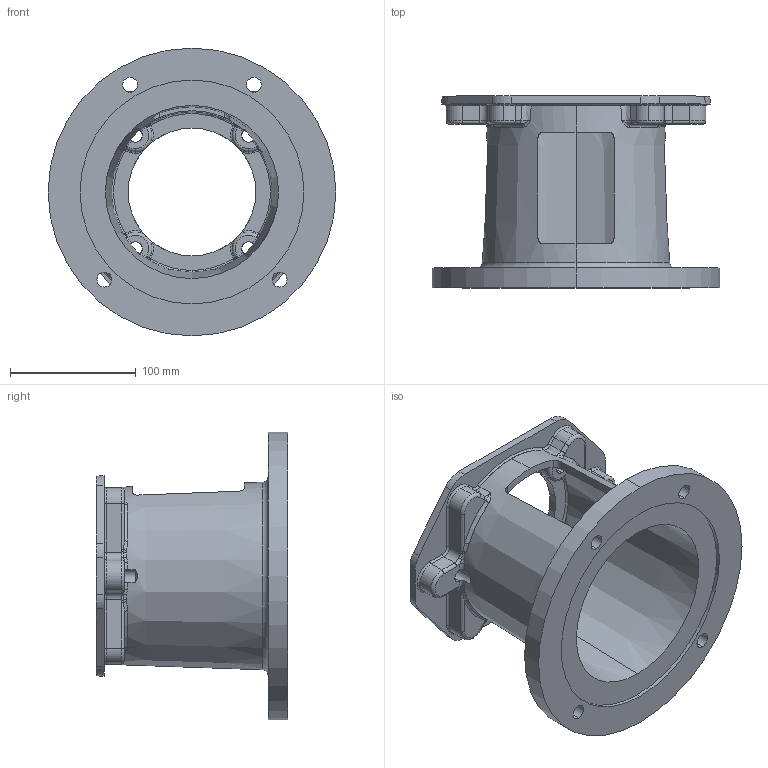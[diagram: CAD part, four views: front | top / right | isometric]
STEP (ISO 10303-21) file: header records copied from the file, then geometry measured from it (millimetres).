
FILE_DESCRIPTION (( 'STEP AP203' ), '1' );
FILE_NAME ('E700602B.STEP', '2014-11-04T13:11:15', ( '' ), ( '' ), 'SwSTEP 2.0', 'SolidWorks 2014', '' );
FILE_SCHEMA (( 'CONFIG_CONTROL_DESIGN' ));
Length unit declared in the file: inch
Products named in the file (1): E700602B
Bounding box: 228.6 x 152.4 x 228.6 mm (x, y, z)
Volume: 906204.2 mm3; surface area: 222990.1 mm2
Topology: 1 solids, 1 shells, 304 faces, 800 edges, 473 vertices
Faces by surface type: torus 87, cylinder 74, bspline 64, plane 43, cone 20, sphere 16
Entity records: 12239 total; most frequent: CARTESIAN_POINT 5118, ORIENTED_EDGE 1560, DIRECTION 1466, EDGE_CURVE 780, AXIS2_PLACEMENT_3D 661, VERTEX_POINT 473, CIRCLE 420, EDGE_LOOP 323
